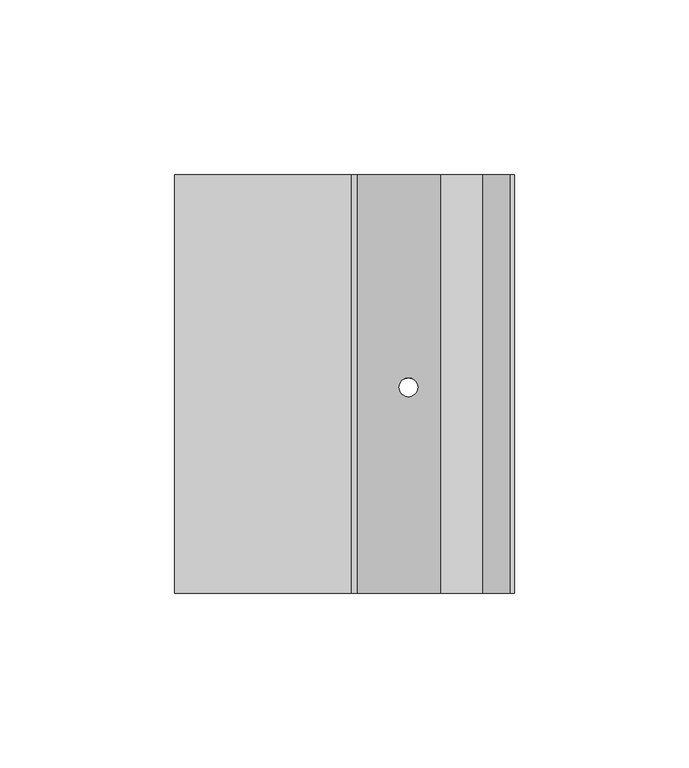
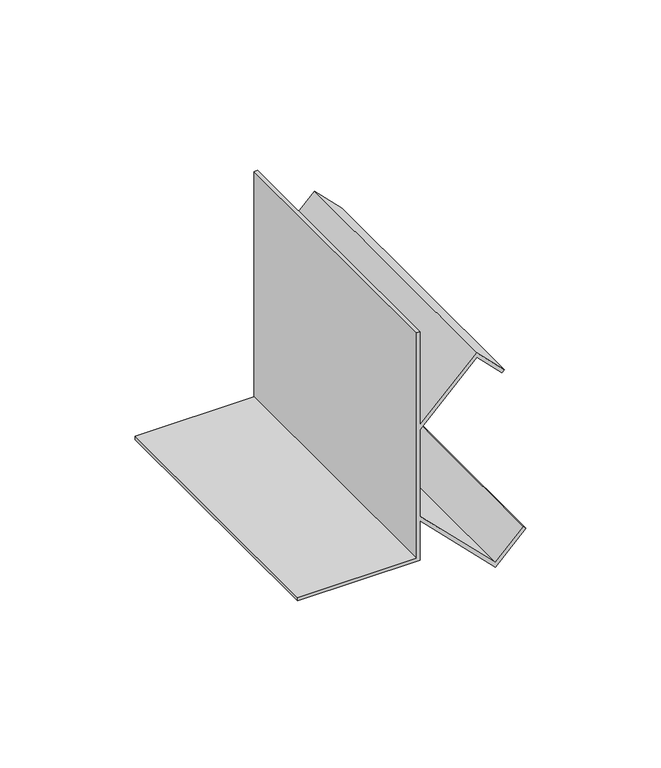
"""IFC4 building model written with IfcOpenShell, lengths in millimetres: proxy geometry, Mechanical Fittings & Accessories36 : Mechanical Fittings & Accessories."""

from ifc_helpers import new_model, si_unit, frame, origin, place, context, project, spatial, polyline, ellipse_curve, source, transform, mapped, element, save
from ifc_brep_helpers import plane_surface, revolved_surface, advanced_brep


def generic_models_908b17a9(model_context):
    return source(origin(), model_context, "Body", "AdvancedBrep", [
        advanced_brep(
        [(-14670.9639562, 7051.4963986, 4114.8), (-14721.7639562, 7051.4963986, 4114.8), (-14721.7639562, 7051.4963986, 4113.3117188), (-14669.475675, 7051.4963986, 4113.3117188), (-14669.475675, 7051.4963986, 4131.1383509), (-14637.365914, 7051.4963986, 4099.0285899), (-14624.3869427, 7051.4963986, 4112.0075612), (-14625.4393164, 7051.4963986, 4113.059935), (-14637.365914, 7051.4963986, 4101.1333374), (-14669.475675, 7051.4963986, 4133.2430984), (-14669.475675, 7051.4963986, 4172.2761118), (-14645.303414, 7051.4963986, 4196.4483729), (-14634.5674414, 7051.4963986, 4185.7124003), (-14633.5150677, 7051.4963986, 4186.7647741), (-14645.303414, 7051.4963986, 4198.5531204), (-14669.475675, 7051.4963986, 4174.3808594), (-14669.475675, 7051.4963986, 4216.4), (-14670.9639562, 7051.4963986, 4216.4), (-14670.9639562, 7171.4645457, 4114.8), (-14670.9639562, 7171.4645457, 4216.4), (-14669.475675, 7171.4645457, 4216.4), (-14669.475675, 7171.4645457, 4174.3808594), (-14645.303414, 7171.4645457, 4198.5531204), (-14633.5150677, 7171.4645457, 4186.7647741), (-14634.5674414, 7171.4645457, 4185.7124003), (-14645.303414, 7171.4645457, 4196.4483729), (-14669.475675, 7171.4645457, 4172.2761118), (-14669.475675, 7171.4645457, 4133.2430984), (-14637.365914, 7171.4645457, 4101.1333374), (-14625.4393164, 7171.4645457, 4113.059935), (-14624.3869427, 7171.4645457, 4112.0075612), (-14637.365914, 7171.4645457, 4099.0285899), (-14669.475675, 7171.4645457, 4131.1383509), (-14669.475675, 7171.4645457, 4113.3117188), (-14721.7639562, 7171.4645457, 4113.3117188), (-14721.7639562, 7171.4645457, 4114.8), (-14657.3617646, 7110.5191481, 4119.0244406), (-14652.0223978, 7110.5191481, 4113.6850737), (-14652.0223978, 7110.5191481, 4115.7898213), (-14657.3617646, 7110.5191481, 4121.1291881), (-14657.3617646, 7110.5191481, 4184.3900222), (-14652.0223978, 7110.5191481, 4189.729389), (-14652.0223978, 7110.5191481, 4191.8341365), (-14657.3617646, 7110.5191481, 4186.4947697)],
        [
            (0, 1),
            (1, 2),
            (2, 3),
            (3, 4),
            (4, 5),
            (5, 6),
            (6, 7),
            (7, 8),
            (8, 9),
            (9, 10),
            (10, 11),
            (11, 12),
            (12, 13),
            (13, 14),
            (14, 15),
            (15, 16),
            (16, 17),
            (17, 0),
            (18, 19),
            (19, 20),
            (20, 21),
            (21, 22),
            (22, 23),
            (23, 24),
            (24, 25),
            (25, 26),
            (26, 27),
            (27, 28),
            (28, 29),
            (29, 30),
            (30, 31),
            (31, 32),
            (32, 33),
            (33, 34),
            (34, 35),
            (35, 18),
            (0, 18),
            (35, 1),
            (34, 2),
            (33, 3),
            (32, 4),
            (31, 5),
            (36, 37, ellipse_curve(frame((-14654.6920812, 7110.5191481, 4116.3547571), z_axis=(0.7071067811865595, 0.0, 0.7071067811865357), x_axis=(-0.7071067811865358, 0.0, 0.7071067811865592)), 3.7755025, 2.6696834)),
            (37, 36, ellipse_curve(frame((-14654.6920812, 7110.5191481, 4116.3547571), z_axis=(0.7071067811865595, 0.0, 0.7071067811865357), x_axis=(-0.7071067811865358, 0.0, 0.7071067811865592)), 3.7755025, 2.6696834)),
            (30, 6),
            (29, 7),
            (28, 8),
            (27, 9),
            (38, 39, ellipse_curve(frame((-14654.6920812, 7110.5191481, 4118.4595047), z_axis=(-0.7071067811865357, 0.0, -0.7071067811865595), x_axis=(-0.7071067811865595, 0.0, 0.7071067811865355)), 3.7755025, 2.6696834)),
            (39, 38, ellipse_curve(frame((-14654.6920812, 7110.5191481, 4118.4595047), z_axis=(-0.7071067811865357, 0.0, -0.7071067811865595), x_axis=(-0.7071067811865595, 0.0, 0.7071067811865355)), 3.7755025, 2.6696834)),
            (26, 10),
            (25, 11),
            (40, 41, ellipse_curve(frame((-14654.6920812, 7110.5191481, 4187.0597056), z_axis=(-0.7071067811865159, 0.0, 0.7071067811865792), x_axis=(0.7071067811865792, 0.0, 0.7071067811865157)), 3.7755025, 2.6696834)),
            (41, 40, ellipse_curve(frame((-14654.6920812, 7110.5191481, 4187.0597056), z_axis=(-0.7071067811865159, 0.0, 0.7071067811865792), x_axis=(0.7071067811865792, 0.0, 0.7071067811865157)), 3.7755025, 2.6696834)),
            (24, 12),
            (23, 13),
            (22, 14),
            (21, 15),
            (42, 43, ellipse_curve(frame((-14654.6920812, 7110.5191481, 4189.1644531), z_axis=(0.7071067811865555, 0.0, -0.7071067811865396), x_axis=(0.7071067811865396, 0.0, 0.7071067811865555)), 3.7755025, 2.6696834)),
            (43, 42, ellipse_curve(frame((-14654.6920812, 7110.5191481, 4189.1644531), z_axis=(0.7071067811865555, 0.0, -0.7071067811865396), x_axis=(0.7071067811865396, 0.0, 0.7071067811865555)), 3.7755025, 2.6696834)),
            (20, 16),
            (19, 17),
            (36, 39),
            (38, 37),
            (40, 43),
            (42, 41),
        ],
        [
            plane_surface(frame((-14721.7639562, 7051.4963986, 4114.8), z_axis=(0.0, -1.0, 0.0), x_axis=(-1.0, 0.0, 0.0))),
            plane_surface(frame((-14721.7639562, 7171.4645457, 4114.8), z_axis=(0.0, 1.0, 0.0), x_axis=(1.0, 0.0, 0.0))),
            plane_surface(frame((-14670.9639562, 7051.4963986, 4114.8), z_axis=(0.0, 0.0, 1.0), x_axis=(0.0, 1.0, 0.0))),
            plane_surface(frame((-14721.7639562, 7051.4963986, 4114.8), z_axis=(-1.0, 0.0, 1.4551915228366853e-12), x_axis=(0.0, 1.0, 0.0))),
            plane_surface(frame((-14721.7639562, 7051.4963986, 4113.3117188), z_axis=(0.0, 0.0, -1.0), x_axis=(0.0, 1.0, 0.0))),
            plane_surface(frame((-14669.475675, 7051.4963986, 4113.3117188), z_axis=(1.0, 0.0, 0.0), x_axis=(0.0, 1.0, 0.0))),
            plane_surface(frame((-14669.475675, 7051.4963986, 4131.1383509), z_axis=(-0.7071067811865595, 0.0, -0.7071067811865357), x_axis=(0.0, 1.0, 0.0))),
            plane_surface(frame((-14637.365914, 7051.4963986, 4099.0285899), z_axis=(0.7071067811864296, 0.0, -0.7071067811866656), x_axis=(0.0, 1.0, 0.0))),
            plane_surface(frame((-14624.3869427, 7051.4963986, 4112.0075612), z_axis=(0.7071067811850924, 0.0, 0.7071067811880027), x_axis=(0.0, 1.0, 0.0))),
            plane_surface(frame((-14625.4393164, 7051.4963986, 4113.059935), z_axis=(-0.7071067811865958, 0.0, 0.7071067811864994), x_axis=(0.0, 1.0, 0.0))),
            plane_surface(frame((-14637.365914, 7051.4963986, 4101.1333374), z_axis=(0.7071067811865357, 0.0, 0.7071067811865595), x_axis=(0.0, 1.0, 0.0))),
            plane_surface(frame((-14669.475675, 7051.4963986, 4133.2430984), z_axis=(1.0, 0.0, 0.0), x_axis=(0.0, 1.0, 0.0))),
            plane_surface(frame((-14669.475675, 7051.4963986, 4172.2761118), z_axis=(0.7071067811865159, 0.0, -0.7071067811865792), x_axis=(0.0, 1.0, 0.0))),
            plane_surface(frame((-14645.303414, 7051.4963986, 4196.4483729), z_axis=(-0.7071067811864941, 0.0, -0.7071067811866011), x_axis=(0.0, 1.0, 0.0))),
            plane_surface(frame((-14634.5674414, 7051.4963986, 4185.7124003), z_axis=(0.7071067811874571, 0.0, -0.7071067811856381), x_axis=(0.0, 1.0, 0.0))),
            plane_surface(frame((-14633.5150677, 7051.4963986, 4186.7647741), z_axis=(0.707106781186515, 0.0, 0.70710678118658), x_axis=(0.0, 1.0, 0.0))),
            plane_surface(frame((-14645.303414, 7051.4963986, 4198.5531204), z_axis=(-0.7071067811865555, 0.0, 0.7071067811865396), x_axis=(0.0, 1.0, 0.0))),
            plane_surface(frame((-14669.475675, 7051.4963986, 4174.3808594), z_axis=(1.0, 0.0, 0.0), x_axis=(0.0, 1.0, 0.0))),
            plane_surface(frame((-14669.475675, 7051.4963986, 4216.4), z_axis=(0.0, 0.0, 1.0), x_axis=(0.0, 1.0, 0.0))),
            plane_surface(frame((-14670.9639562, 7051.4963986, 4216.4), z_axis=(-1.0, 0.0, 0.0), x_axis=(0.0, 1.0, 0.0))),
            revolved_surface(polyline([(-14652.022397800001, 7110.5191481, 4121.129188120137), (-14652.022397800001, 7110.5191481, 4113.685073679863)]), (-14654.6920812, 7110.5191481, 4097.2034211), (0.0, 0.0, 1.0)),
            revolved_surface(polyline([(-14652.022397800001, 7110.5191481, 4191.834136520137), (-14652.022397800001, 7110.5191481, 4184.390022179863)]), (-14654.6920812, 7110.5191481, 4097.2034211), (0.0, 0.0, 1.0)),
        ],
        [
            (0, [[1, 2, 3, 4, 5, 6, 7, 8, 9, 10, 11, 12, 13, 14, 15, 16, 17, 18]]),
            (1, [[19, 20, 21, 22, 23, 24, 25, 26, 27, 28, 29, 30, 31, 32, 33, 34, 35, 36]]),
            (2, [[-1, 37, -36, 38]]),
            (3, [[-2, -38, -35, 39]]),
            (4, [[-3, -39, -34, 40]]),
            (5, [[-4, -40, -33, 41]]),
            (6, [[-5, -41, -32, 42], [43, 44]]),
            (7, [[-6, -42, -31, 45]]),
            (8, [[-7, -45, -30, 46]]),
            (9, [[-8, -46, -29, 47]]),
            (10, [[-9, -47, -28, 48], [49, 50]]),
            (11, [[-10, -48, -27, 51]]),
            (12, [[-11, -51, -26, 52], [53, 54]]),
            (13, [[-12, -52, -25, 55]]),
            (14, [[-13, -55, -24, 56]]),
            (15, [[-14, -56, -23, 57]]),
            (16, [[-15, -57, -22, 58], [59, 60]]),
            (17, [[-16, -58, -21, 61]]),
            (18, [[-17, -61, -20, 62]]),
            (19, [[-18, -62, -19, -37]]),
            (20, [[63, -49, 64, -43]]),
            (21, [[65, -59, 66, -53]]),
            (20, [[-63, -44, -64, -50]]),
            (21, [[-65, -54, -66, -60]]),
        ],
    ),
    ])


if __name__ == "__main__":
    model = new_model("IFC4")
    model_context = context("Model", 3, world=origin())
    ifc_project = project(units=[si_unit("LENGTHUNIT", "METRE", prefix="MILLI")], contexts=[model_context])
    site = spatial("IfcSite", under=ifc_project)
    building = spatial("IfcBuilding", under=site)
    placement = place(None, origin())
    generic_models_shape = generic_models_908b17a9(model_context)
    element("IfcBuildingElementProxy", 1, Name="Mechanical Fittings & Accessories36 : Mechanical Fittings & Accessories", ObjectType="Mechanical Fittings & Accessories36 : Mechanical Fittings & Accessories", at=placement, inside=building, context=model_context, shape_type="MappedRepresentation", body=[
        mapped(generic_models_shape, transform((0.0, 0.0, 0.0), x_axis=(1.0, 0.0, 0.0), y_axis=(0.0, 1.0, 0.0), z_axis=(0.0, 0.0, 1.0))),
    ])
    save(model, "model.ifc")
